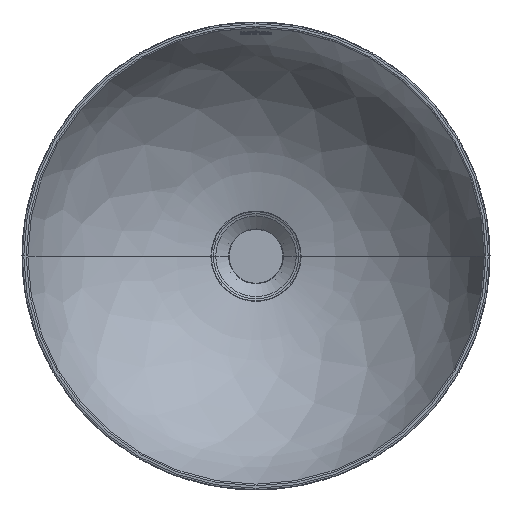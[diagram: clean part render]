
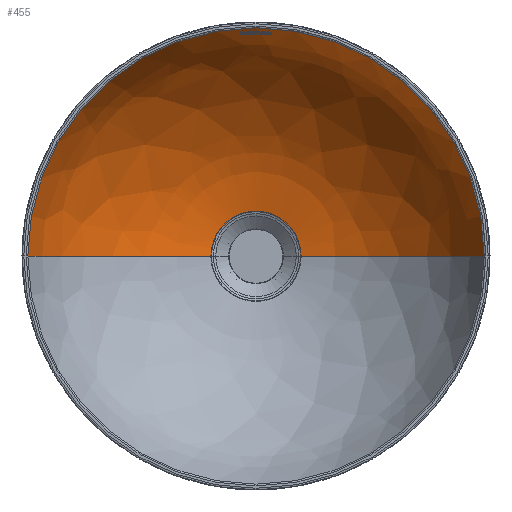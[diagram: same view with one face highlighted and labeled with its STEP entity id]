
A CAD part, top view. The second image highlights one B-rep face of the part: STEP entity #455.
In plain terms, the highlighted free-form (B-spline) face has degree [2, 2] with [3, 5] control points.
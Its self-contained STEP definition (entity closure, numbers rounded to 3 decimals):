
#455=ADVANCED_FACE('',(#876),#6397,.T.);
#876=FACE_OUTER_BOUND('',#1345,.T.);
#1345=EDGE_LOOP('',(#3144,#3145,#3146,#3147));
#3144=ORIENTED_EDGE('',*,*,#4320,.T.);
#3145=ORIENTED_EDGE('',*,*,#4265,.F.);
#3146=ORIENTED_EDGE('',*,*,#4264,.F.);
#3147=ORIENTED_EDGE('',*,*,#4308,.F.);
#4264=EDGE_CURVE('',#6220,#6227,#4680,.T.);
#4265=EDGE_CURVE('',#6227,#6257,#4681,.T.);
#4308=EDGE_CURVE('',#6250,#6220,#4701,.T.);
#4320=EDGE_CURVE('',#6250,#6257,#4711,.T.);
#4680=TRIMMED_CURVE($,#4895,(#12215),(#12216),.T.,.CARTESIAN.);
#4681=TRIMMED_CURVE($,#4896,(#12218),(#12219),.T.,.CARTESIAN.);
#4701=TRIMMED_CURVE($,#4916,(#12562),(#12563),.T.,.CARTESIAN.);
#4711=TRIMMED_CURVE($,#4926,(#12596),(#12597),.T.,.CARTESIAN.);
#4895=CIRCLE('',#7325,205.804);
#4896=CIRCLE('',#7326,194.655);
#4916=CIRCLE('',#7346,38.031);
#4926=CIRCLE('',#7356,205.804);
#6220=VERTEX_POINT('',#12040);
#6227=VERTEX_POINT('',#12047);
#6250=VERTEX_POINT('',#12070);
#6257=VERTEX_POINT('',#12077);
#6397=(
BOUNDED_SURFACE()
B_SPLINE_SURFACE(2,2,((#11995,#11996,#11997,#11998,#11999),(#12000,#12001,
#12002,#12003,#12004),(#12005,#12006,#12007,#12008,#12009)),
 .UNSPECIFIED.,.F.,.F.,.F.)
B_SPLINE_SURFACE_WITH_KNOTS((3,3),(3,2,3),(1075.057,1292.032),
(611.527,917.291,1223.055),.UNSPECIFIED.)
GEOMETRIC_REPRESENTATION_ITEM()
RATIONAL_B_SPLINE_SURFACE(((1.,0.707,1.,0.707,1.),
(0.864,0.611,0.864,0.611,
0.864),(1.,0.707,1.,0.707,1.)))
REPRESENTATION_ITEM('')
SURFACE()
);
#7325=AXIS2_PLACEMENT_3D($,#12214,#8052,#8053);
#7326=AXIS2_PLACEMENT_3D($,#12217,#8054,#8055);
#7346=AXIS2_PLACEMENT_3D($,#12561,#8094,#8095);
#7356=AXIS2_PLACEMENT_3D($,#12595,#8114,#8115);
#8052=DIRECTION('',(0.,1.,0.));
#8053=DIRECTION('',(-0.185,0.,-0.983));
#8054=DIRECTION('',(0.,0.,-1.));
#8055=DIRECTION('',(-1.,0.,0.));
#8094=DIRECTION('',(0.,0.,1.));
#8095=DIRECTION('',(1.,0.,0.));
#8114=DIRECTION('',(0.,-1.,0.));
#8115=DIRECTION('',(0.185,0.,-0.983));
#11995=CARTESIAN_POINT('',(21306.21,69.871,-4172.601));
#11996=CARTESIAN_POINT('',(21306.21,107.902,-4172.601));
#11997=CARTESIAN_POINT('',(21268.178,107.902,-4172.601));
#11998=CARTESIAN_POINT('',(21230.147,107.902,-4172.601));
#11999=CARTESIAN_POINT('',(21230.147,69.871,-4172.601));
#12000=CARTESIAN_POINT('',(21423.941,69.871,-4150.464));
#12001=CARTESIAN_POINT('',(21423.941,225.633,-4150.464));
#12002=CARTESIAN_POINT('',(21268.178,225.633,-4150.464));
#12003=CARTESIAN_POINT('',(21112.416,225.633,-4150.464));
#12004=CARTESIAN_POINT('',(21112.416,69.871,-4150.464));
#12005=CARTESIAN_POINT('',(21462.834,69.871,-4037.159));
#12006=CARTESIAN_POINT('',(21462.834,264.526,-4037.159));
#12007=CARTESIAN_POINT('',(21268.178,264.526,-4037.159));
#12008=CARTESIAN_POINT('',(21073.523,264.526,-4037.159));
#12009=CARTESIAN_POINT('',(21073.523,69.871,-4037.159));
#12040=CARTESIAN_POINT('',(21230.147,69.871,-4172.601));
#12047=CARTESIAN_POINT('',(21073.523,69.871,-4037.159));
#12070=CARTESIAN_POINT('',(21306.21,69.871,-4172.601));
#12077=CARTESIAN_POINT('',(21462.834,69.871,-4037.159));
#12214=CARTESIAN_POINT('',(21268.178,69.871,-3970.342));
#12215=CARTESIAN_POINT('',(21230.147,69.871,-4172.601));
#12216=CARTESIAN_POINT('',(21073.523,69.871,-4037.159));
#12217=CARTESIAN_POINT('',(21268.178,69.871,-4037.159));
#12218=CARTESIAN_POINT('',(21073.523,69.871,-4037.159));
#12219=CARTESIAN_POINT('',(21462.834,69.871,-4037.159));
#12561=CARTESIAN_POINT('',(21268.178,69.871,-4172.601));
#12562=CARTESIAN_POINT('',(21306.21,69.871,-4172.601));
#12563=CARTESIAN_POINT('',(21230.147,69.871,-4172.601));
#12595=CARTESIAN_POINT('',(21268.178,69.871,-3970.342));
#12596=CARTESIAN_POINT('',(21306.21,69.871,-4172.601));
#12597=CARTESIAN_POINT('',(21462.834,69.871,-4037.159));
